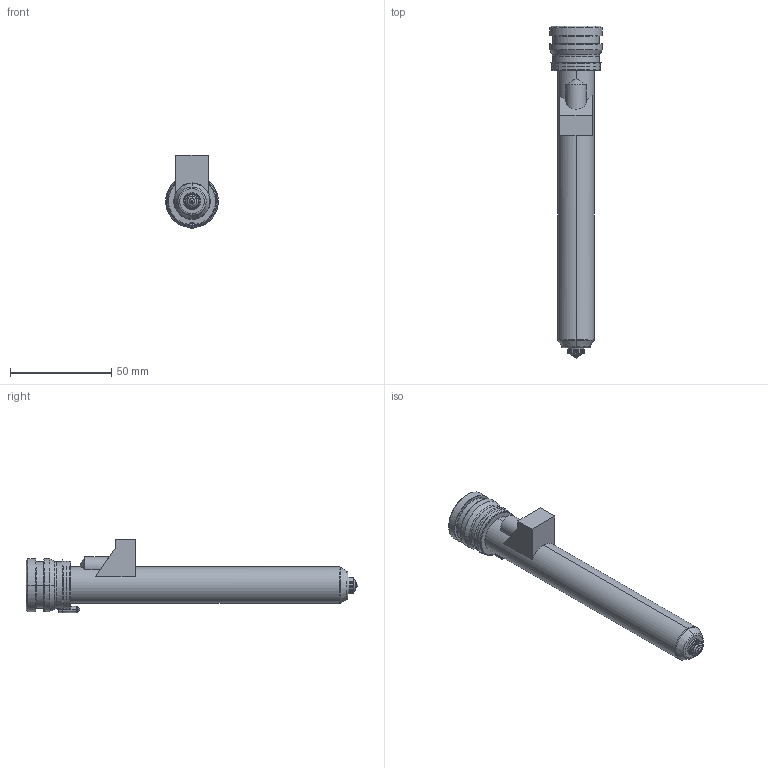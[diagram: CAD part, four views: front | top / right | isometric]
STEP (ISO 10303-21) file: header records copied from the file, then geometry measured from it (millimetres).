
FILE_DESCRIPTION((''),'2;1');
FILE_NAME('TH18146-M-1-PK-JG','2023-12-14T',('umhib'),('Thermoplay S.p.A.'),'PRO/ENGINEER BY PARAMETRIC TECHNOLOGY CORPORATION, 2017170','PRO/ENGINEER BY PARAMETRIC TECHNOLOGY CORPORATION, 2017170','');
FILE_SCHEMA(('CONFIG_CONTROL_DESIGN'));
Length unit declared in the file: millimetre
Products named in the file (1): TH18146-M-1-PK-JG
Bounding box: 26 x 164 x 36.1 mm (x, y, z)
Volume: 33281.8 mm3; surface area: 25150.5 mm2
Topology: 1 solids, 2 shells, 391 faces, 999 edges, 613 vertices
Faces by surface type: cylinder 149, plane 87, cone 62, torus 58, bspline 22, sphere 11, extrusion 2
Entity records: 16788 total; most frequent: CARTESIAN_POINT 5160, DIRECTION 2000, ORIENTED_EDGE 1972, EDGE_CURVE 988, AXIS2_PLACEMENT_3D 806, VERTEX_POINT 613, CIRCLE 438, EDGE_LOOP 414
